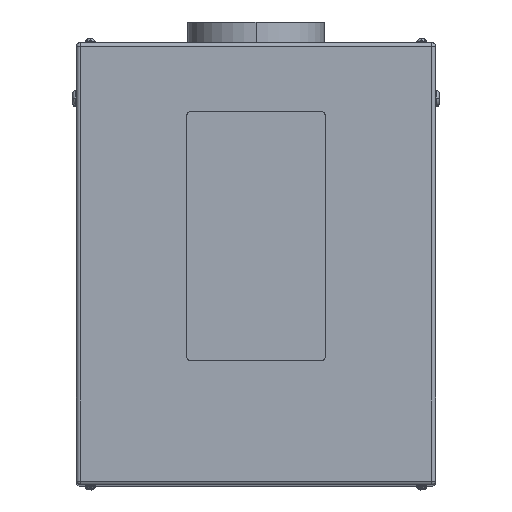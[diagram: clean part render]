
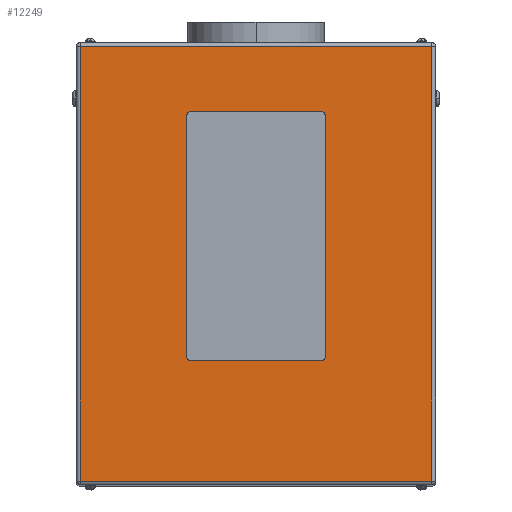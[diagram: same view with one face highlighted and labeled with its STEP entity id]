
A CAD part, top view. The second image highlights one B-rep face of the part: STEP entity #12249.
In plain terms, the highlighted planar face has unit normal (0, 0, 1).
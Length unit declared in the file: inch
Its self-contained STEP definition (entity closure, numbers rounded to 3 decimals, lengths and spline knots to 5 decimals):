
#26 = DIRECTION ( 'NONE',  ( 1., 0., 0. ) ) ;
#308 = VECTOR ( 'NONE', #8936, 39.37008 ) ;
#339 = CARTESIAN_POINT ( 'NONE',  ( 13., 16., 26. ) ) ;
#1005 = DIRECTION ( 'NONE',  ( 0., -1., 0. ) ) ;
#1487 = AXIS2_PLACEMENT_3D ( 'NONE', #339, #8130, #1681 ) ;
#1578 = AXIS2_PLACEMENT_3D ( 'NONE', #6468, #11318, #3978 ) ;
#1605 = DIRECTION ( 'NONE',  ( -1., 0., 0. ) ) ;
#1681 = DIRECTION ( 'NONE',  ( -1., 0., 0. ) ) ;
#1821 = CARTESIAN_POINT ( 'NONE',  ( -4.75, 10.75, 26. ) ) ;
#2247 = LINE ( 'NONE', #7307, #4834 ) ;
#2702 = CARTESIAN_POINT ( 'NONE',  ( -4.75, -7., 26. ) ) ;
#2717 = VECTOR ( 'NONE', #4267, 39.37008 ) ;
#2990 = VERTEX_POINT ( 'NONE', #15793 ) ;
#3363 = DIRECTION ( 'NONE',  ( -1., 0., 0. ) ) ;
#3475 = EDGE_CURVE ( 'NONE', #6949, #6022, #7138, .T. ) ;
#3523 = DIRECTION ( 'NONE',  ( 1., 0., 0. ) ) ;
#3770 = CARTESIAN_POINT ( 'NONE',  ( 4.75, 11., 26. ) ) ;
#3808 = CARTESIAN_POINT ( 'NONE',  ( -5., -6.75, 26. ) ) ;
#3810 = LINE ( 'NONE', #13994, #5047 ) ;
#3844 = EDGE_CURVE ( 'NONE', #15775, #5383, #3810, .T. ) ;
#3879 = LINE ( 'NONE', #4024, #308 ) ;
#3978 = DIRECTION ( 'NONE',  ( 1., 0., 0. ) ) ;
#4024 = CARTESIAN_POINT ( 'NONE',  ( 12.734, 16., 26. ) ) ;
#4039 = ORIENTED_EDGE ( 'NONE', *, *, #11521, .F. ) ;
#4267 = DIRECTION ( 'NONE',  ( 1., 0., 0. ) ) ;
#4358 = VECTOR ( 'NONE', #15018, 39.37008 ) ;
#4517 = ORIENTED_EDGE ( 'NONE', *, *, #15722, .F. ) ;
#4614 = VECTOR ( 'NONE', #13418, 39.37008 ) ;
#4713 = EDGE_CURVE ( 'NONE', #5383, #7171, #10868, .T. ) ;
#4820 = CIRCLE ( 'NONE', #7181, 0.25 ) ;
#4834 = VECTOR ( 'NONE', #1005, 39.37008 ) ;
#5047 = VECTOR ( 'NONE', #1605, 39.37008 ) ;
#5095 = FACE_BOUND ( 'NONE', #9534, .T. ) ;
#5214 = CARTESIAN_POINT ( 'NONE',  ( -4.75, 11., 26. ) ) ;
#5255 = LINE ( 'NONE', #11485, #15969 ) ;
#5383 = VERTEX_POINT ( 'NONE', #16363 ) ;
#5432 = EDGE_CURVE ( 'NONE', #8404, #9508, #15513, .T. ) ;
#5840 = AXIS2_PLACEMENT_3D ( 'NONE', #14900, #7352, #3363 ) ;
#6022 = VERTEX_POINT ( 'NONE', #2702 ) ;
#6041 = ORIENTED_EDGE ( 'NONE', *, *, #8051, .T. ) ;
#6234 = ORIENTED_EDGE ( 'NONE', *, *, #4713, .T. ) ;
#6413 = PLANE ( 'NONE',  #1487 ) ;
#6468 = CARTESIAN_POINT ( 'NONE',  ( -4.75, -6.75, 26. ) ) ;
#6782 = ORIENTED_EDGE ( 'NONE', *, *, #3844, .T. ) ;
#6949 = VERTEX_POINT ( 'NONE', #3808 ) ;
#7138 = CIRCLE ( 'NONE', #1578, 0.25 ) ;
#7171 = VERTEX_POINT ( 'NONE', #12146 ) ;
#7181 = AXIS2_PLACEMENT_3D ( 'NONE', #13713, #10908, #3523 ) ;
#7201 = ORIENTED_EDGE ( 'NONE', *, *, #3475, .F. ) ;
#7307 = CARTESIAN_POINT ( 'NONE',  ( -5., 10.75, 26. ) ) ;
#7321 = LINE ( 'NONE', #9328, #2717 ) ;
#7352 = DIRECTION ( 'NONE',  ( 0., 0., 1. ) ) ;
#8051 = EDGE_CURVE ( 'NONE', #2990, #15775, #3879, .T. ) ;
#8128 = EDGE_CURVE ( 'NONE', #6022, #12643, #7321, .T. ) ;
#8130 = DIRECTION ( 'NONE',  ( 0., 0., -1. ) ) ;
#8404 = VERTEX_POINT ( 'NONE', #11698 ) ;
#8756 = CARTESIAN_POINT ( 'NONE',  ( 5., 10.75, 26. ) ) ;
#8925 = DIRECTION ( 'NONE',  ( 0., 1., 0. ) ) ;
#8936 = DIRECTION ( 'NONE',  ( 0., 1., 0. ) ) ;
#9253 = CARTESIAN_POINT ( 'NONE',  ( 4.75, -7., 26. ) ) ;
#9328 = CARTESIAN_POINT ( 'NONE',  ( -4.75, -7., 26. ) ) ;
#9333 = EDGE_CURVE ( 'NONE', #12643, #11542, #4820, .T. ) ;
#9508 = VERTEX_POINT ( 'NONE', #11151 ) ;
#9534 = EDGE_LOOP ( 'NONE', ( #15166, #7201, #4517, #11624, #4039, #11130, #12853, #15154 ) ) ;
#10185 = FACE_OUTER_BOUND ( 'NONE', #11404, .T. ) ;
#10268 = LINE ( 'NONE', #8756, #11807 ) ;
#10311 = DIRECTION ( 'NONE',  ( 1., 0., 0. ) ) ;
#10417 = EDGE_CURVE ( 'NONE', #7171, #2990, #5255, .T. ) ;
#10496 = AXIS2_PLACEMENT_3D ( 'NONE', #1821, #11779, #10311 ) ;
#10868 = LINE ( 'NONE', #14433, #4614 ) ;
#10908 = DIRECTION ( 'NONE',  ( 0., 0., 1. ) ) ;
#10968 = VERTEX_POINT ( 'NONE', #3770 ) ;
#11130 = ORIENTED_EDGE ( 'NONE', *, *, #15834, .F. ) ;
#11151 = CARTESIAN_POINT ( 'NONE',  ( -5., 10.75, 26. ) ) ;
#11318 = DIRECTION ( 'NONE',  ( 0., 0., 1. ) ) ;
#11404 = EDGE_LOOP ( 'NONE', ( #6234, #11511, #6041, #6782 ) ) ;
#11485 = CARTESIAN_POINT ( 'NONE',  ( 12.734, -15.734, 26. ) ) ;
#11511 = ORIENTED_EDGE ( 'NONE', *, *, #10417, .T. ) ;
#11521 = EDGE_CURVE ( 'NONE', #10968, #8404, #15331, .T. ) ;
#11542 = VERTEX_POINT ( 'NONE', #15092 ) ;
#11624 = ORIENTED_EDGE ( 'NONE', *, *, #5432, .F. ) ;
#11698 = CARTESIAN_POINT ( 'NONE',  ( -4.75, 11., 26. ) ) ;
#11779 = DIRECTION ( 'NONE',  ( 0., 0., 1. ) ) ;
#11807 = VECTOR ( 'NONE', #8925, 39.37008 ) ;
#12146 = CARTESIAN_POINT ( 'NONE',  ( -12.734, -15.734, 26. ) ) ;
#12249 = ADVANCED_FACE ( 'NONE', ( #5095, #10185 ), #6413, .F. ) ;
#12411 = CARTESIAN_POINT ( 'NONE',  ( 5., 10.75, 26. ) ) ;
#12643 = VERTEX_POINT ( 'NONE', #9253 ) ;
#12853 = ORIENTED_EDGE ( 'NONE', *, *, #14650, .F. ) ;
#13418 = DIRECTION ( 'NONE',  ( 0., -1., 0. ) ) ;
#13713 = CARTESIAN_POINT ( 'NONE',  ( 4.75, -6.75, 26. ) ) ;
#13994 = CARTESIAN_POINT ( 'NONE',  ( 13., 15.734, 26. ) ) ;
#14402 = CARTESIAN_POINT ( 'NONE',  ( 12.734, 15.734, 26. ) ) ;
#14433 = CARTESIAN_POINT ( 'NONE',  ( -12.734, 16., 26. ) ) ;
#14650 = EDGE_CURVE ( 'NONE', #11542, #15839, #10268, .T. ) ;
#14900 = CARTESIAN_POINT ( 'NONE',  ( 4.75, 10.75, 26. ) ) ;
#15018 = DIRECTION ( 'NONE',  ( -1., 0., 0. ) ) ;
#15092 = CARTESIAN_POINT ( 'NONE',  ( 5., -6.75, 26. ) ) ;
#15154 = ORIENTED_EDGE ( 'NONE', *, *, #9333, .F. ) ;
#15166 = ORIENTED_EDGE ( 'NONE', *, *, #8128, .F. ) ;
#15331 = LINE ( 'NONE', #5214, #4358 ) ;
#15513 = CIRCLE ( 'NONE', #10496, 0.25 ) ;
#15722 = EDGE_CURVE ( 'NONE', #9508, #6949, #2247, .T. ) ;
#15775 = VERTEX_POINT ( 'NONE', #14402 ) ;
#15793 = CARTESIAN_POINT ( 'NONE',  ( 12.734, -15.734, 26. ) ) ;
#15834 = EDGE_CURVE ( 'NONE', #15839, #10968, #15908, .T. ) ;
#15839 = VERTEX_POINT ( 'NONE', #12411 ) ;
#15908 = CIRCLE ( 'NONE', #5840, 0.25 ) ;
#15969 = VECTOR ( 'NONE', #26, 39.37008 ) ;
#16363 = CARTESIAN_POINT ( 'NONE',  ( -12.734, 15.734, 26. ) ) ;
